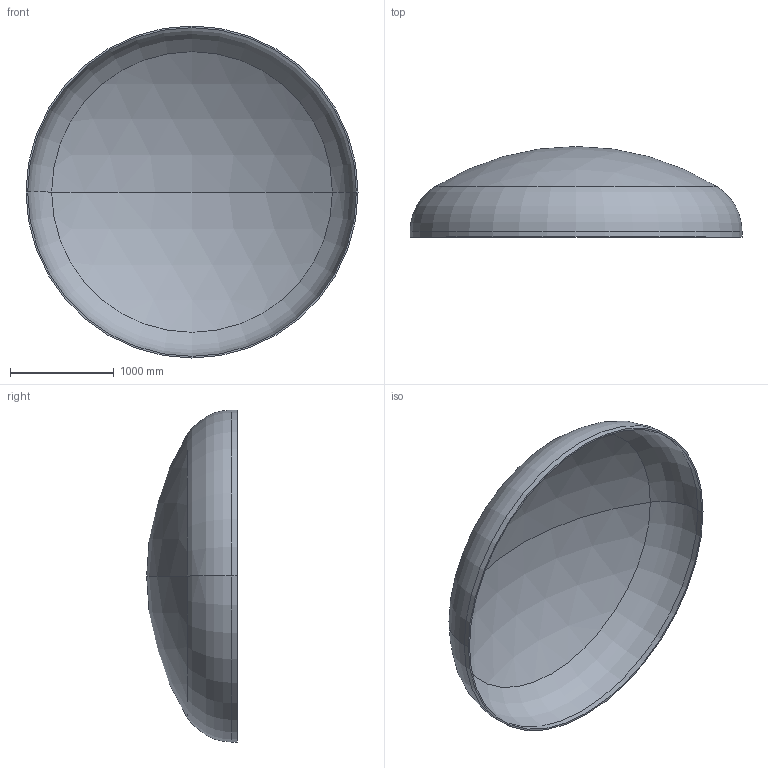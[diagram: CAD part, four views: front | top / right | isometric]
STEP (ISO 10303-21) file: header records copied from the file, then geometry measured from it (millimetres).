
FILE_DESCRIPTION (( 'STEP AP203' ), '1' );
FILE_NAME ('DIN 28013 Korbbogenform_-_Boden DIN 28013 - 3200 x 55 - I - s=16.step', '2016-07-01T18:21:36', ( '' ), ( '' ), 'SwSTEP 2.0', 'SolidWorks 2013', '' );
FILE_SCHEMA (( 'CONFIG_CONTROL_DESIGN' ));
Length unit declared in the file: millimetre
Products named in the file (1): DIN 28013 Korbbogenform_-_Boden DIN 28013 - 3200 x 55 - I - s=16
Bounding box: 3200 x 873.71 x 3200 mm (x, y, z)
Volume: 185658059.1 mm3; surface area: 23367829.7 mm2
Topology: 1 solids, 1 shells, 13 faces, 24 edges, 14 vertices
Faces by surface type: torus 4, cylinder 4, sphere 4, plane 1
Entity records: 407 total; most frequent: DIRECTION 72, CARTESIAN_POINT 52, ORIENTED_EDGE 48, AXIS2_PLACEMENT_3D 34, EDGE_CURVE 24, CIRCLE 20, VERTEX_POINT 14, EDGE_LOOP 14
